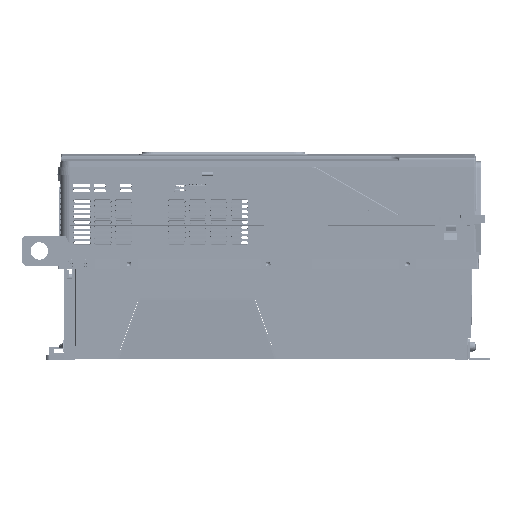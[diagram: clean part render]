
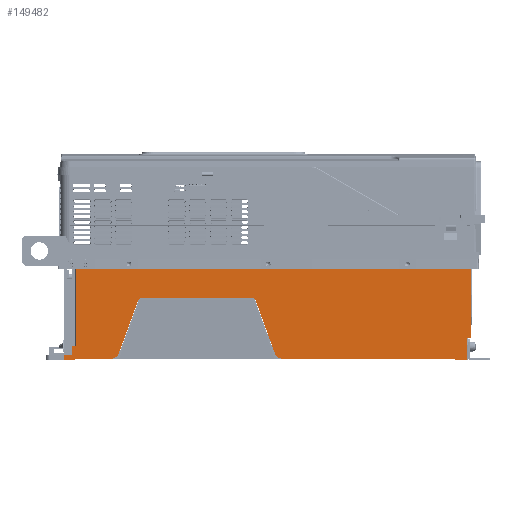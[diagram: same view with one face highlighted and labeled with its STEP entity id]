
A CAD part, left-side view. The second image highlights one B-rep face of the part: STEP entity #149482.
In plain terms, the highlighted planar face has unit normal (-1, 0, 0).
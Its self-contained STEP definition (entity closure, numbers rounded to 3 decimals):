
#38459=DIRECTION('',(0.,1.,-0.017));
#38460=VECTOR('',#38459,0.335);
#38461=CARTESIAN_POINT('',(-3.74,8.898,
0.225));
#38462=LINE('',#38461,#38460);
#46072=DIRECTION('',(0.,1.,0.));
#46073=VECTOR('',#46072,0.512);
#46074=CARTESIAN_POINT('',(-3.74,8.72,0.));
#46075=LINE('',#46074,#46073);
#46120=DIRECTION('',(0.,0.342,-0.94));
#46121=VECTOR('',#46120,2.519);
#46122=CARTESIAN_POINT('',(-3.74,5.894,
2.666));
#46123=LINE('',#46122,#46121);
#46124=CARTESIAN_POINT('',(-3.74,7.126,
0.433));
#46125=DIRECTION('',(-1.,0.,0.));
#46126=DIRECTION('',(0.,0.,-1.));
#46127=AXIS2_PLACEMENT_3D('',#46124,#46125,#46126);
#46129=DIRECTION('',(0.,1.,0.));
#46130=VECTOR('',#46129,1.594);
#46131=CARTESIAN_POINT('',(-3.74,7.126,
0.039));
#46132=LINE('',#46131,#46130);
#46133=DIRECTION('',(0.,0.,-1.));
#46134=VECTOR('',#46133,0.039);
#46135=CARTESIAN_POINT('',(-3.74,8.72,
0.039));
#46136=LINE('',#46135,#46134);
#46137=DIRECTION('',(0.,0.,1.));
#46138=VECTOR('',#46137,0.219);
#46139=CARTESIAN_POINT('',(-3.74,9.232,0.));
#46140=LINE('',#46139,#46138);
#46141=DIRECTION('',(0.,0.,-1.));
#46142=VECTOR('',#46141,3.49);
#46143=CARTESIAN_POINT('',(-3.74,8.682,
4.094));
#46144=LINE('',#46143,#46142);
#46145=DIRECTION('',(0.,1.,0.));
#46146=VECTOR('',#46145,17.867);
#46147=CARTESIAN_POINT('',(-3.74,-9.185,
4.094));
#46148=LINE('',#46147,#46146);
#46149=DIRECTION('',(0.,-0.009,1.));
#46150=VECTOR('',#46149,3.091);
#46151=CARTESIAN_POINT('',(-3.74,-9.158,
1.004));
#46152=LINE('',#46151,#46150);
#46153=DIRECTION('',(0.,-0.009,1.));
#46154=VECTOR('',#46153,1.004);
#46155=CARTESIAN_POINT('',(-3.74,-8.987,0.));
#46156=LINE('',#46155,#46154);
#46157=DIRECTION('',(0.,1.,0.));
#46158=VECTOR('',#46157,7.774);
#46159=CARTESIAN_POINT('',(-3.74,-8.444,
0.039));
#46160=LINE('',#46159,#46158);
#46161=CARTESIAN_POINT('',(-3.74,-0.669,
0.433));
#46162=DIRECTION('',(-1.,0.,0.));
#46163=DIRECTION('',(0.,0.94,-0.342));
#46164=AXIS2_PLACEMENT_3D('',#46161,#46162,#46163);
#46166=DIRECTION('',(0.,0.342,0.94));
#46167=VECTOR('',#46166,2.519);
#46168=CARTESIAN_POINT('',(-3.74,-0.299,
0.298));
#46169=LINE('',#46168,#46167);
#46170=DIRECTION('',(0.,1.,0.));
#46171=VECTOR('',#46170,4.962);
#46172=CARTESIAN_POINT('',(-3.74,0.747,
2.795));
#46173=LINE('',#46172,#46171);
#46178=CARTESIAN_POINT('',(-3.74,5.709,
2.598));
#46179=DIRECTION('',(1.,0.,0.));
#46180=DIRECTION('',(0.,0.28,0.96));
#46181=AXIS2_PLACEMENT_3D('',#46178,#46179,#46180);
#46193=CARTESIAN_POINT('',(-3.74,5.709,
2.598));
#46194=DIRECTION('',(1.,0.,0.));
#46195=DIRECTION('',(0.,0.94,0.342));
#46196=AXIS2_PLACEMENT_3D('',#46193,#46194,#46195);
#46270=CARTESIAN_POINT('',(-3.74,0.747,
2.598));
#46271=DIRECTION('',(1.,0.,0.));
#46272=DIRECTION('',(0.,-0.28,0.96));
#46273=AXIS2_PLACEMENT_3D('',#46270,#46271,#46272);
#46285=CARTESIAN_POINT('',(-3.74,0.747,
2.598));
#46286=DIRECTION('',(1.,0.,0.));
#46287=DIRECTION('',(0.,0.,1.));
#46288=AXIS2_PLACEMENT_3D('',#46285,#46286,#46287);
#48356=DIRECTION('',(0.,-1.,0.));
#48357=VECTOR('',#48356,0.162);
#48358=CARTESIAN_POINT('',(-3.74,-8.996,
1.004));
#48359=LINE('',#48358,#48357);
#48368=CARTESIAN_POINT('',(-3.74,-9.158,
1.004));
#48532=CARTESIAN_POINT('',(-3.74,-8.987,0.));
#48554=DIRECTION('',(0.,1.,0.));
#48555=VECTOR('',#48554,0.542);
#48556=CARTESIAN_POINT('',(-3.74,-8.987,0.));
#48557=LINE('',#48556,#48555);
#48558=DIRECTION('',(0.,-0.026,-1.));
#48559=VECTOR('',#48558,0.039);
#48560=CARTESIAN_POINT('',(-3.74,-8.444,
0.039));
#48561=LINE('',#48560,#48559);
#49584=DIRECTION('',(0.,1.,0.));
#49585=VECTOR('',#49584,0.215);
#49586=CARTESIAN_POINT('',(-3.74,8.682,
0.604));
#49587=LINE('',#49586,#49585);
#49592=DIRECTION('',(0.,0.,1.));
#49593=VECTOR('',#49592,0.38);
#49594=CARTESIAN_POINT('',(-3.74,8.898,
0.225));
#49595=LINE('',#49594,#49593);
#84531=CARTESIAN_POINT('',(-3.74,8.72,
0.039));
#84532=CARTESIAN_POINT('',(-3.74,8.72,0.));
#84533=VERTEX_POINT('',#84531);
#84534=VERTEX_POINT('',#84532);
#84890=CARTESIAN_POINT('',(-3.74,8.898,
0.604));
#84892=VERTEX_POINT('',#84890);
#84907=CARTESIAN_POINT('',(-3.74,8.898,
0.225));
#84909=VERTEX_POINT('',#84907);
#85071=CARTESIAN_POINT('',(-3.74,5.894,
2.666));
#85073=VERTEX_POINT('',#85071);
#85075=CARTESIAN_POINT('',(-3.74,5.709,
2.795));
#85077=VERTEX_POINT('',#85075);
#85079=CARTESIAN_POINT('',(-3.74,0.747,
2.795));
#85081=VERTEX_POINT('',#85079);
#85083=CARTESIAN_POINT('',(-3.74,0.562,
2.666));
#85085=VERTEX_POINT('',#85083);
#85458=CARTESIAN_POINT('',(-3.74,-8.444,
0.039));
#85459=CARTESIAN_POINT('',(-3.74,-8.445,0.));
#85460=VERTEX_POINT('',#85458);
#85461=VERTEX_POINT('',#85459);
#86064=VERTEX_POINT('',#48368);
#86077=VERTEX_POINT('',#48532);
#86078=CARTESIAN_POINT('',(-3.74,-8.996,
1.004));
#86079=VERTEX_POINT('',#86078);
#86084=CARTESIAN_POINT('',(-3.74,8.682,
0.604));
#86085=VERTEX_POINT('',#86084);
#86112=CARTESIAN_POINT('',(-3.74,-9.185,
4.094));
#86113=CARTESIAN_POINT('',(-3.74,8.682,
4.094));
#86114=VERTEX_POINT('',#86112);
#86115=VERTEX_POINT('',#86113);
#86334=CARTESIAN_POINT('',(-3.74,-0.299,
0.298));
#86335=VERTEX_POINT('',#86334);
#86336=CARTESIAN_POINT('',(-3.74,-0.669,
0.039));
#86337=VERTEX_POINT('',#86336);
#86338=CARTESIAN_POINT('',(-3.74,7.126,
0.039));
#86339=CARTESIAN_POINT('',(-3.74,6.756,
0.298));
#86340=VERTEX_POINT('',#86338);
#86341=VERTEX_POINT('',#86339);
#86467=CARTESIAN_POINT('',(-3.74,9.232,0.));
#86468=VERTEX_POINT('',#86467);
#86479=CARTESIAN_POINT('',(-3.74,9.232,
0.219));
#86480=VERTEX_POINT('',#86479);
#87084=CARTESIAN_POINT('',(-3.74,5.765,
2.787));
#87086=VERTEX_POINT('',#87084);
#87092=CARTESIAN_POINT('',(-3.74,0.692,
2.787));
#87094=VERTEX_POINT('',#87092);
#149432=CARTESIAN_POINT('',(-3.74,-9.224,
4.146));
#149433=DIRECTION('',(-1.,0.,0.));
#149434=DIRECTION('',(0.,1.,0.));
#149435=AXIS2_PLACEMENT_3D('',#149432,#149433,#149434);
#149436=PLANE('',#149435);
#149438=ORIENTED_EDGE('',*,*,#149437,.F.);
#149440=ORIENTED_EDGE('',*,*,#149439,.T.);
#149442=ORIENTED_EDGE('',*,*,#149441,.F.);
#149444=ORIENTED_EDGE('',*,*,#149443,.T.);
#149445=ORIENTED_EDGE('',*,*,#149347,.T.);
#149446=ORIENTED_EDGE('',*,*,#149382,.T.);
#149447=ORIENTED_EDGE('',*,*,#149426,.T.);
#149448=ORIENTED_EDGE('',*,*,#144671,.F.);
#149450=ORIENTED_EDGE('',*,*,#149449,.T.);
#149452=ORIENTED_EDGE('',*,*,#149451,.F.);
#149454=ORIENTED_EDGE('',*,*,#149453,.F.);
#149455=ORIENTED_EDGE('',*,*,#113672,.F.);
#149457=ORIENTED_EDGE('',*,*,#149456,.F.);
#149459=ORIENTED_EDGE('',*,*,#149458,.F.);
#149461=ORIENTED_EDGE('',*,*,#149460,.F.);
#149463=ORIENTED_EDGE('',*,*,#149462,.T.);
#149465=ORIENTED_EDGE('',*,*,#149464,.F.);
#149467=ORIENTED_EDGE('',*,*,#149466,.T.);
#149469=ORIENTED_EDGE('',*,*,#149468,.F.);
#149471=ORIENTED_EDGE('',*,*,#149470,.T.);
#149473=ORIENTED_EDGE('',*,*,#149472,.F.);
#149475=ORIENTED_EDGE('',*,*,#149474,.F.);
#149477=ORIENTED_EDGE('',*,*,#149476,.T.);
#149479=ORIENTED_EDGE('',*,*,#149478,.F.);
#149480=EDGE_LOOP('',(#149438,#149440,#149442,#149444,#149445,#149446,#149447,
#149448,#149450,#149452,#149454,#149455,#149457,#149459,#149461,#149463,#149465,
#149467,#149469,#149471,#149473,#149475,#149477,#149479));
#149481=FACE_OUTER_BOUND('',#149480,.F.);
#149482=ADVANCED_FACE('',(#149481),#149436,.T.);
#46128=CIRCLE('',#46127,0.394);
#46165=CIRCLE('',#46164,0.394);
#46182=CIRCLE('',#46181,0.197);
#46197=CIRCLE('',#46196,0.197);
#46274=CIRCLE('',#46273,0.197);
#46289=CIRCLE('',#46288,0.197);
#113672=EDGE_CURVE('',#86114,#86115,#46148,.T.);
#144671=EDGE_CURVE('',#84909,#86480,#38462,.T.);
#149347=EDGE_CURVE('',#84533,#84534,#46136,.T.);
#149382=EDGE_CURVE('',#84534,#86468,#46075,.T.);
#149426=EDGE_CURVE('',#86468,#86480,#46140,.T.);
#149437=EDGE_CURVE('',#85073,#87086,#46197,.T.);
#149439=EDGE_CURVE('',#85073,#86341,#46123,.T.);
#149441=EDGE_CURVE('',#86340,#86341,#46128,.T.);
#149443=EDGE_CURVE('',#86340,#84533,#46132,.T.);
#149449=EDGE_CURVE('',#84909,#84892,#49595,.T.);
#149451=EDGE_CURVE('',#86085,#84892,#49587,.T.);
#149453=EDGE_CURVE('',#86115,#86085,#46144,.T.);
#149456=EDGE_CURVE('',#86064,#86114,#46152,.T.);
#149458=EDGE_CURVE('',#86079,#86064,#48359,.T.);
#149460=EDGE_CURVE('',#86077,#86079,#46156,.T.);
#149462=EDGE_CURVE('',#86077,#85461,#48557,.T.);
#149464=EDGE_CURVE('',#85460,#85461,#48561,.T.);
#149466=EDGE_CURVE('',#85460,#86337,#46160,.T.);
#149468=EDGE_CURVE('',#86335,#86337,#46165,.T.);
#149470=EDGE_CURVE('',#86335,#85085,#46169,.T.);
#149472=EDGE_CURVE('',#87094,#85085,#46274,.T.);
#149474=EDGE_CURVE('',#85081,#87094,#46289,.T.);
#149476=EDGE_CURVE('',#85081,#85077,#46173,.T.);
#149478=EDGE_CURVE('',#87086,#85077,#46182,.T.);
